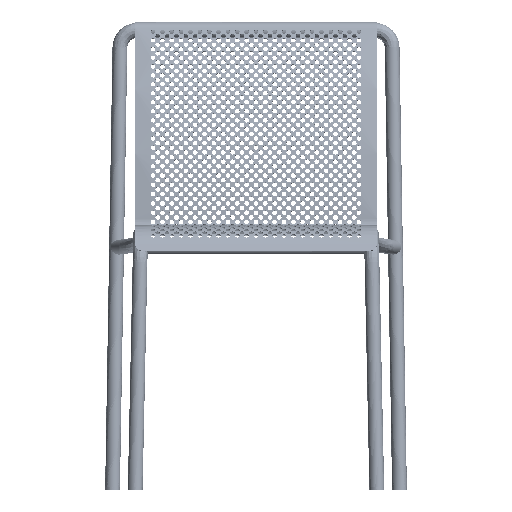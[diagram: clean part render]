
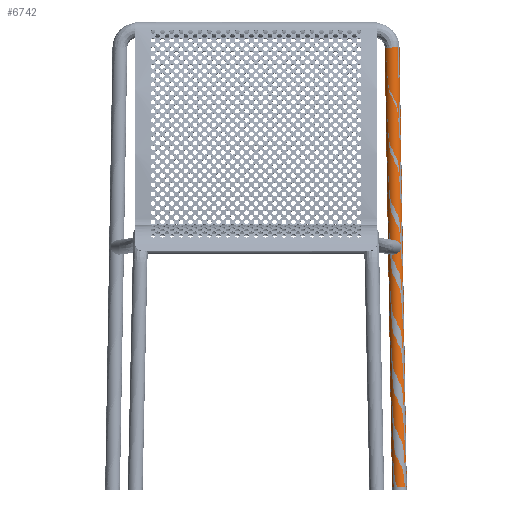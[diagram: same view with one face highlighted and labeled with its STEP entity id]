
A CAD part, front view. The second image highlights one B-rep face of the part: STEP entity #6742.
In plain terms, the highlighted cylindrical face has radius 12.7 mm (diameter 25.4 mm), a partial arc.
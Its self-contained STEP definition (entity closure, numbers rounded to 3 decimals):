
#6742=ADVANCED_FACE('',(#11580),#91714,.T.);
#11580=FACE_OUTER_BOUND('',#16421,.T.);
#16421=EDGE_LOOP('',(#25609,#25610,#25611,#25612));
#25609=ORIENTED_EDGE('',*,*,#53985,.F.);
#25610=ORIENTED_EDGE('',*,*,#53998,.T.);
#25611=ORIENTED_EDGE('',*,*,#53999,.F.);
#25612=ORIENTED_EDGE('',*,*,#54000,.T.);
#53985=EDGE_CURVE('',#82422,#82423,#68160,.T.);
#53998=EDGE_CURVE('',#82422,#82427,#72502,.T.);
#53999=EDGE_CURVE('',#82428,#82427,#68171,.T.);
#54000=EDGE_CURVE('',#82428,#82423,#72503,.T.);
#68160=(
BOUNDED_CURVE()
B_SPLINE_CURVE(2,(#100202,#100203,#100204,#100205,#100206),
 .UNSPECIFIED.,.F.,.F.)
B_SPLINE_CURVE_WITH_KNOTS((3,2,3),(0.,19.949,39.898),
 .UNSPECIFIED.)
CURVE()
GEOMETRIC_REPRESENTATION_ITEM()
RATIONAL_B_SPLINE_CURVE((1.,0.707,1.,0.707,1.))
REPRESENTATION_ITEM('')
);
#68171=(
BOUNDED_CURVE()
B_SPLINE_CURVE(2,(#100255,#100256,#100257,#100258,#100259),
 .UNSPECIFIED.,.F.,.F.)
B_SPLINE_CURVE_WITH_KNOTS((3,2,3),(-39.898,-19.949,
0.),.UNSPECIFIED.)
CURVE()
GEOMETRIC_REPRESENTATION_ITEM()
RATIONAL_B_SPLINE_CURVE((1.,0.707,1.,0.707,1.))
REPRESENTATION_ITEM('')
);
#72502=B_SPLINE_CURVE_WITH_KNOTS('',1,(#100253,#100254),.UNSPECIFIED.,.F.,
 .F.,(2,2),(0.,751.603),.UNSPECIFIED.);
#72503=B_SPLINE_CURVE_WITH_KNOTS('',1,(#100260,#100261),.UNSPECIFIED.,.F.,
 .F.,(2,2),(0.,751.603),.UNSPECIFIED.);
#82422=VERTEX_POINT('',#100038);
#82423=VERTEX_POINT('',#100039);
#82427=VERTEX_POINT('',#100043);
#82428=VERTEX_POINT('',#100044);
#91714=CYLINDRICAL_SURFACE('',#94207,12.7);
#94207=AXIS2_PLACEMENT_3D('',#99681,#96439,$);
#96439=DIRECTION('',(0.017,0.,-1.));
#99681=CARTESIAN_POINT('',(239.05,1259.351,377.107));
#100038=CARTESIAN_POINT('',(220.102,1259.351,752.645));
#100039=CARTESIAN_POINT('',(245.498,1259.351,753.068));
#100043=CARTESIAN_POINT('',(232.602,1259.351,1.146));
#100044=CARTESIAN_POINT('',(257.998,1259.351,1.569));
#100202=CARTESIAN_POINT('',(220.102,1259.351,752.645));
#100203=CARTESIAN_POINT('',(220.102,1246.651,752.645));
#100204=CARTESIAN_POINT('',(232.8,1246.651,752.857));
#100205=CARTESIAN_POINT('',(245.498,1246.651,753.068));
#100206=CARTESIAN_POINT('',(245.498,1259.351,753.068));
#100253=CARTESIAN_POINT('',(220.102,1259.351,752.645));
#100254=CARTESIAN_POINT('',(232.602,1259.351,1.146));
#100255=CARTESIAN_POINT('',(257.998,1259.351,1.569));
#100256=CARTESIAN_POINT('',(257.998,1246.651,1.569));
#100257=CARTESIAN_POINT('',(245.3,1246.651,1.358));
#100258=CARTESIAN_POINT('',(232.602,1246.651,1.146));
#100259=CARTESIAN_POINT('',(232.602,1259.351,1.146));
#100260=CARTESIAN_POINT('',(257.998,1259.351,1.569));
#100261=CARTESIAN_POINT('',(245.498,1259.351,753.068));
